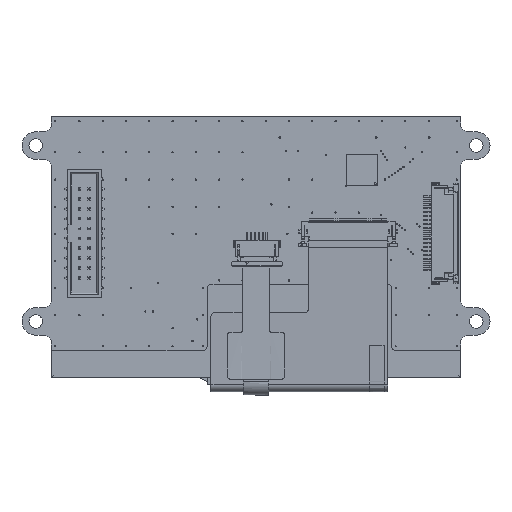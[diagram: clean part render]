
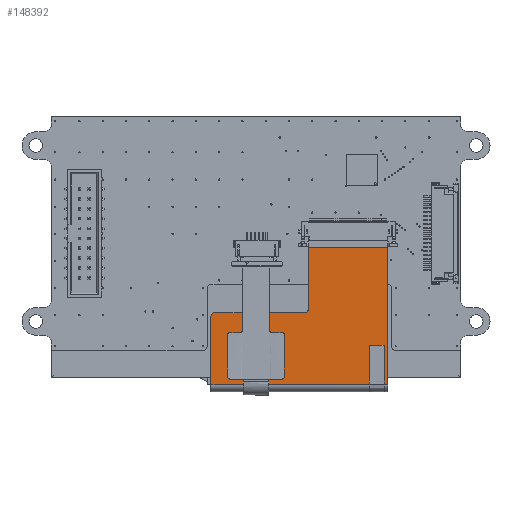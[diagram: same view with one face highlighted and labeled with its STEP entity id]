
A CAD part, top view. The second image highlights one B-rep face of the part: STEP entity #148392.
In plain terms, the highlighted planar face has unit normal (0, 0.044, 0.999) by its records, which use the part's own axes.
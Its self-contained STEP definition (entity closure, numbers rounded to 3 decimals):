
#227 = EDGE_CURVE ( 'NONE', #124573, #85438, #121942, .T. ) ;
#1247 = ORIENTED_EDGE ( 'NONE', *, *, #35710, .F. ) ;
#2794 = ORIENTED_EDGE ( 'NONE', *, *, #42731, .F. ) ;
#5777 = ORIENTED_EDGE ( 'NONE', *, *, #101685, .F. ) ;
#6113 = AXIS2_PLACEMENT_3D ( 'NONE', #98264, #14003, #112420 ) ;
#6836 = AXIS2_PLACEMENT_3D ( 'NONE', #68949, #167258, #83122 ) ;
#11530 = B_SPLINE_CURVE_WITH_KNOTS ( 'NONE', 3,
 ( #115824, #172307, #74079, #88118 ),
 .UNSPECIFIED., .F., .F.,
 ( 4, 4 ),
 ( 0., 1. ),
 .UNSPECIFIED. ) ;
#13403 = PLANE ( 'NONE',  #6113 ) ;
#13983 = CARTESIAN_POINT ( 'NONE',  ( -67.797, 25.252, 17.306 ) ) ;
#14003 = DIRECTION ( 'NONE',  ( 0., -0.044, -0.999 ) ) ;
#18369 = CARTESIAN_POINT ( 'NONE',  ( -91.897, 37.298, 16.781 ) ) ;
#22086 = CARTESIAN_POINT ( 'NONE',  ( -67.797, 18.69, 17.593 ) ) ;
#23657 = CARTESIAN_POINT ( 'NONE',  ( -84.197, 37.298, 16.781 ) ) ;
#24446 = CARTESIAN_POINT ( 'NONE',  ( -68.797, 36.299, 16.824 ) ) ;
#25321 = CARTESIAN_POINT ( 'NONE',  ( -92.897, 54.132, 16.046 ) ) ;
#25432 = AXIS2_PLACEMENT_3D ( 'NONE', #24446, #122839, #38672 ) ;
#34059 = VERTEX_POINT ( 'NONE', #160324 ) ;
#35710 = EDGE_CURVE ( 'NONE', #51838, #55179, #121446, .T. ) ;
#37847 = CARTESIAN_POINT ( 'NONE',  ( -91.897, 37.298, 16.781 ) ) ;
#38063 = VECTOR ( 'NONE', #162930, 1000. ) ;
#38672 = DIRECTION ( 'NONE',  ( 0., 0.999, -0.044 ) ) ;
#40325 = CARTESIAN_POINT ( 'NONE',  ( -113.397, 54.132, 16.046 ) ) ;
#42144 = CARTESIAN_POINT ( 'NONE',  ( -92.897, 43.576, 16.506 ) ) ;
#42367 = CIRCLE ( 'NONE', #25432, 1. ) ;
#42731 = EDGE_CURVE ( 'NONE', #47880, #34059, #165870, .T. ) ;
#42905 = EDGE_CURVE ( 'NONE', #145270, #65316, #11530, .T. ) ;
#46021 = CARTESIAN_POINT ( 'NONE',  ( -67.797, 19.728, 17.548 ) ) ;
#47880 = VERTEX_POINT ( 'NONE', #25321 ) ;
#50428 = CARTESIAN_POINT ( 'NONE',  ( -67.797, 18.69, 17.593 ) ) ;
#51838 = VERTEX_POINT ( 'NONE', #18369 ) ;
#54600 = ORIENTED_EDGE ( 'NONE', *, *, #68593, .F. ) ;
#55179 = VERTEX_POINT ( 'NONE', #178184 ) ;
#58008 = EDGE_CURVE ( 'NONE', #51838, #34059, #153326, .T. ) ;
#58681 = ORIENTED_EDGE ( 'NONE', *, *, #227, .T. ) ;
#65316 = VERTEX_POINT ( 'NONE', #22086 ) ;
#68380 = VERTEX_POINT ( 'NONE', #158279 ) ;
#68593 = EDGE_CURVE ( 'NONE', #68380, #47880, #169569, .T. ) ;
#68949 = CARTESIAN_POINT ( 'NONE',  ( -91.897, 38.297, 16.737 ) ) ;
#70044 = CARTESIAN_POINT ( 'NONE',  ( -67.797, 36.299, 16.824 ) ) ;
#72091 = EDGE_CURVE ( 'NONE', #145046, #145270, #118175, .T. ) ;
#74079 = CARTESIAN_POINT ( 'NONE',  ( -67.797, 19.036, 17.578 ) ) ;
#79877 = LINE ( 'NONE', #50428, #38063 ) ;
#81180 = CARTESIAN_POINT ( 'NONE',  ( -113.397, 18.69, 17.593 ) ) ;
#81356 = CARTESIAN_POINT ( 'NONE',  ( -113.397, 19.728, 17.548 ) ) ;
#81398 = CARTESIAN_POINT ( 'NONE',  ( -113.397, 19.036, 17.578 ) ) ;
#81564 = CARTESIAN_POINT ( 'NONE',  ( -113.397, 19.382, 17.563 ) ) ;
#82751 = CARTESIAN_POINT ( 'NONE',  ( -113.397, 19.728, 17.548 ) ) ;
#83122 = DIRECTION ( 'NONE',  ( 0., 0.999, -0.044 ) ) ;
#84347 = ORIENTED_EDGE ( 'NONE', *, *, #58008, .T. ) ;
#85438 = VERTEX_POINT ( 'NONE', #116013 ) ;
#85773 = CARTESIAN_POINT ( 'NONE',  ( -92.897, 54.132, 16.046 ) ) ;
#88118 = CARTESIAN_POINT ( 'NONE',  ( -67.797, 18.69, 17.593 ) ) ;
#92312 = ORIENTED_EDGE ( 'NONE', *, *, #97940, .F. ) ;
#97940 = EDGE_CURVE ( 'NONE', #65316, #85438, #79877, .T. ) ;
#98052 = CARTESIAN_POINT ( 'NONE',  ( -92.897, 54.132, 16.046 ) ) ;
#98264 = CARTESIAN_POINT ( 'NONE',  ( -13113.003, -629.132, 45.877 ) ) ;
#101685 = EDGE_CURVE ( 'NONE', #55179, #145046, #42367, .T. ) ;
#110351 = CARTESIAN_POINT ( 'NONE',  ( -113.397, 42.664, 16.546 ) ) ;
#111968 = B_SPLINE_CURVE_WITH_KNOTS ( 'NONE', 3,
 ( #40325, #110351, #166888, #82751 ),
 .UNSPECIFIED., .F., .F.,
 ( 4, 4 ),
 ( 0., 1. ),
 .UNSPECIFIED. ) ;
#112403 = CARTESIAN_POINT ( 'NONE',  ( -67.797, 19.728, 17.548 ) ) ;
#112420 = DIRECTION ( 'NONE',  ( 1., 0., 0. ) ) ;
#115824 = CARTESIAN_POINT ( 'NONE',  ( -67.797, 19.728, 17.548 ) ) ;
#116013 = CARTESIAN_POINT ( 'NONE',  ( -113.397, 18.69, 17.593 ) ) ;
#117773 = EDGE_CURVE ( 'NONE', #68380, #124573, #111968, .T. ) ;
#118175 = B_SPLINE_CURVE_WITH_KNOTS ( 'NONE', 3,
 ( #70044, #125899, #13983, #112403 ),
 .UNSPECIFIED., .F., .F.,
 ( 4, 4 ),
 ( 0., 1. ),
 .UNSPECIFIED. ) ;
#121088 = ORIENTED_EDGE ( 'NONE', *, *, #72091, .F. ) ;
#121446 = B_SPLINE_CURVE_WITH_KNOTS ( 'NONE', 3,
 ( #37847, #23657, #121991, #136182 ),
 .UNSPECIFIED., .F., .F.,
 ( 4, 4 ),
 ( 0., 1. ),
 .UNSPECIFIED. ) ;
#121942 = B_SPLINE_CURVE_WITH_KNOTS ( 'NONE', 3,
 ( #81356, #81564, #81398, #81180 ),
 .UNSPECIFIED., .F., .F.,
 ( 4, 4 ),
 ( 0., 1. ),
 .UNSPECIFIED. ) ;
#121991 = CARTESIAN_POINT ( 'NONE',  ( -76.497, 37.298, 16.781 ) ) ;
#122839 = DIRECTION ( 'NONE',  ( 0., -0.044, -0.999 ) ) ;
#124573 = VERTEX_POINT ( 'NONE', #155410 ) ;
#124729 = CARTESIAN_POINT ( 'NONE',  ( -67.797, 36.299, 16.824 ) ) ;
#125899 = CARTESIAN_POINT ( 'NONE',  ( -67.797, 30.775, 17.065 ) ) ;
#135638 = EDGE_LOOP ( 'NONE', ( #147544, #121088, #5777, #1247, #84347, #2794, #54600, #164325, #58681, #92312 ) ) ;
#136182 = CARTESIAN_POINT ( 'NONE',  ( -68.797, 37.298, 16.781 ) ) ;
#140469 = CARTESIAN_POINT ( 'NONE',  ( -92.897, 38.297, 16.737 ) ) ;
#141689 = CARTESIAN_POINT ( 'NONE',  ( -113.397, 54.132, 16.046 ) ) ;
#144478 = FACE_OUTER_BOUND ( 'NONE', #135638, .T. ) ;
#145046 = VERTEX_POINT ( 'NONE', #124729 ) ;
#145270 = VERTEX_POINT ( 'NONE', #46021 ) ;
#147544 = ORIENTED_EDGE ( 'NONE', *, *, #42905, .F. ) ;
#148392 = ADVANCED_FACE ( 'NONE', ( #144478 ), #13403, .F. ) ;
#153326 = CIRCLE ( 'NONE', #6836, 1. ) ;
#154025 = CARTESIAN_POINT ( 'NONE',  ( -92.897, 48.854, 16.276 ) ) ;
#155410 = CARTESIAN_POINT ( 'NONE',  ( -113.397, 19.728, 17.548 ) ) ;
#155889 = CARTESIAN_POINT ( 'NONE',  ( -106.563, 54.132, 16.046 ) ) ;
#158279 = CARTESIAN_POINT ( 'NONE',  ( -113.397, 54.132, 16.046 ) ) ;
#160324 = CARTESIAN_POINT ( 'NONE',  ( -92.897, 38.297, 16.737 ) ) ;
#162930 = DIRECTION ( 'NONE',  ( -1., 0., 0. ) ) ;
#164325 = ORIENTED_EDGE ( 'NONE', *, *, #117773, .T. ) ;
#165870 = B_SPLINE_CURVE_WITH_KNOTS ( 'NONE', 3,
 ( #98052, #154025, #42144, #140469 ),
 .UNSPECIFIED., .F., .F.,
 ( 4, 4 ),
 ( 0., 1. ),
 .UNSPECIFIED. ) ;
#166888 = CARTESIAN_POINT ( 'NONE',  ( -113.397, 31.196, 17.047 ) ) ;
#167258 = DIRECTION ( 'NONE',  ( 0., -0.044, -0.999 ) ) ;
#169569 = B_SPLINE_CURVE_WITH_KNOTS ( 'NONE', 3,
 ( #141689, #155889, #169918, #85773 ),
 .UNSPECIFIED., .F., .F.,
 ( 4, 4 ),
 ( 0., 1. ),
 .UNSPECIFIED. ) ;
#169918 = CARTESIAN_POINT ( 'NONE',  ( -99.73, 54.132, 16.046 ) ) ;
#172307 = CARTESIAN_POINT ( 'NONE',  ( -67.797, 19.382, 17.563 ) ) ;
#178184 = CARTESIAN_POINT ( 'NONE',  ( -68.797, 37.298, 16.781 ) ) ;
